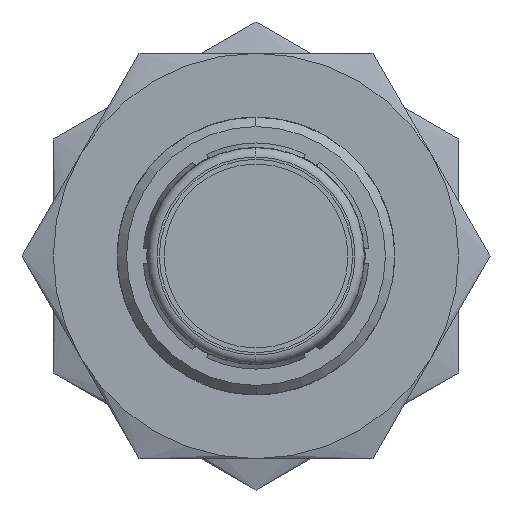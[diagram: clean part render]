
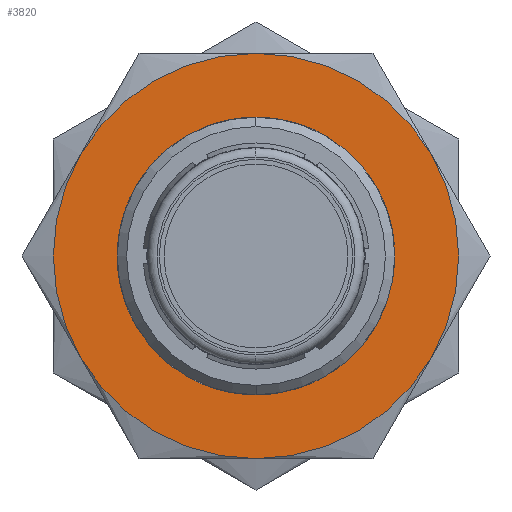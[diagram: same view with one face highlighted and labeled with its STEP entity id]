
A CAD part, front view. The second image highlights one B-rep face of the part: STEP entity #3820.
In plain terms, the highlighted planar face has unit normal (0, -1, 0).
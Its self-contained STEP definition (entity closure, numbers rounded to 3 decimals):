
#1576=CARTESIAN_POINT('',(0.,7.,0.));
#1577=DIRECTION('',(0.,-1.,0.));
#1578=DIRECTION('',(0.,0.,-1.));
#1579=AXIS2_PLACEMENT_3D('',#1576,#1577,#1578);
#1584=CARTESIAN_POINT('',(0.,7.,0.));
#1585=DIRECTION('',(0.,1.,0.));
#1586=DIRECTION('',(0.,0.,-1.));
#1587=AXIS2_PLACEMENT_3D('',#1584,#1585,#1586);
#1592=CARTESIAN_POINT('',(0.,7.,0.));
#1593=DIRECTION('',(0.,1.,0.));
#1594=DIRECTION('',(-0.866,0.,-0.5));
#1595=AXIS2_PLACEMENT_3D('',#1592,#1593,#1594);
#1600=CARTESIAN_POINT('',(0.,7.,0.));
#1601=DIRECTION('',(0.,1.,0.));
#1602=DIRECTION('',(0.,0.,1.));
#1603=AXIS2_PLACEMENT_3D('',#1600,#1601,#1602);
#1608=CARTESIAN_POINT('',(0.,7.,0.));
#1609=DIRECTION('',(0.,1.,0.));
#1610=DIRECTION('',(0.866,0.,0.5));
#1611=AXIS2_PLACEMENT_3D('',#1608,#1609,#1610);
#1616=CARTESIAN_POINT('',(0.,7.,0.));
#1617=DIRECTION('',(0.,-1.,0.));
#1618=DIRECTION('',(0.,0.,1.));
#1619=AXIS2_PLACEMENT_3D('',#1616,#1617,#1618);
#1624=CARTESIAN_POINT('',(0.,7.,0.));
#1625=DIRECTION('',(0.,1.,0.));
#1626=DIRECTION('',(1.,0.,0.));
#1627=AXIS2_PLACEMENT_3D('',#1624,#1625,#1626);
#1670=CARTESIAN_POINT('',(0.,7.,0.));
#1671=DIRECTION('',(0.,1.,0.));
#1672=DIRECTION('',(-1.,0.,0.));
#1673=AXIS2_PLACEMENT_3D('',#1670,#1671,#1672);
#2254=CARTESIAN_POINT('',(0.,7.,-6.5));
#2255=CARTESIAN_POINT('',(-5.629,7.,-3.25));
#2256=VERTEX_POINT('',#2254);
#2257=VERTEX_POINT('',#2255);
#2258=CARTESIAN_POINT('',(-5.629,7.,3.25));
#2259=VERTEX_POINT('',#2258);
#2260=CARTESIAN_POINT('',(0.,7.,6.5));
#2261=CARTESIAN_POINT('',(5.629,7.,3.25));
#2262=VERTEX_POINT('',#2260);
#2263=VERTEX_POINT('',#2261);
#2264=CARTESIAN_POINT('',(5.629,7.,-3.25));
#2265=VERTEX_POINT('',#2264);
#2282=CARTESIAN_POINT('',(4.,7.,0.));
#2283=CARTESIAN_POINT('',(-4.,7.,0.));
#2284=VERTEX_POINT('',#2282);
#2285=VERTEX_POINT('',#2283);
#3796=CARTESIAN_POINT('',(0.,7.,0.));
#3797=DIRECTION('',(0.,-1.,0.));
#3798=DIRECTION('',(0.866,0.,0.5));
#3799=AXIS2_PLACEMENT_3D('',#3796,#3797,#3798);
#3800=PLANE('',#3799);
#3801=ORIENTED_EDGE('',*,*,#3779,.F.);
#3803=ORIENTED_EDGE('',*,*,#3802,.T.);
#3805=ORIENTED_EDGE('',*,*,#3804,.T.);
#3807=ORIENTED_EDGE('',*,*,#3806,.F.);
#3809=ORIENTED_EDGE('',*,*,#3808,.T.);
#3811=ORIENTED_EDGE('',*,*,#3810,.T.);
#3812=EDGE_LOOP('',(#3801,#3803,#3805,#3807,#3809,#3811));
#3813=FACE_OUTER_BOUND('',#3812,.F.);
#3815=ORIENTED_EDGE('',*,*,#3814,.F.);
#3817=ORIENTED_EDGE('',*,*,#3816,.F.);
#3818=EDGE_LOOP('',(#3815,#3817));
#3819=FACE_BOUND('',#3818,.F.);
#1580=CIRCLE('',#1579,6.5);
#1588=CIRCLE('',#1587,6.5);
#1596=CIRCLE('',#1595,6.5);
#1604=CIRCLE('',#1603,6.5);
#1612=CIRCLE('',#1611,6.5);
#1620=CIRCLE('',#1619,6.5);
#1628=CIRCLE('',#1627,4.);
#1674=CIRCLE('',#1673,4.);
#3779=EDGE_CURVE('',#2256,#2265,#1580,.T.);
#3802=EDGE_CURVE('',#2256,#2257,#1588,.T.);
#3804=EDGE_CURVE('',#2257,#2259,#1596,.T.);
#3806=EDGE_CURVE('',#2262,#2259,#1620,.T.);
#3808=EDGE_CURVE('',#2262,#2263,#1604,.T.);
#3810=EDGE_CURVE('',#2263,#2265,#1612,.T.);
#3814=EDGE_CURVE('',#2284,#2285,#1628,.T.);
#3816=EDGE_CURVE('',#2285,#2284,#1674,.T.);
#3820=ADVANCED_FACE('',(#3813,#3819),#3800,.T.);
